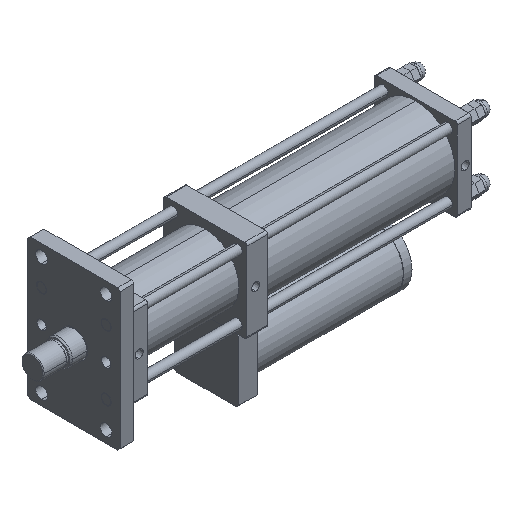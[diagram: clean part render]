
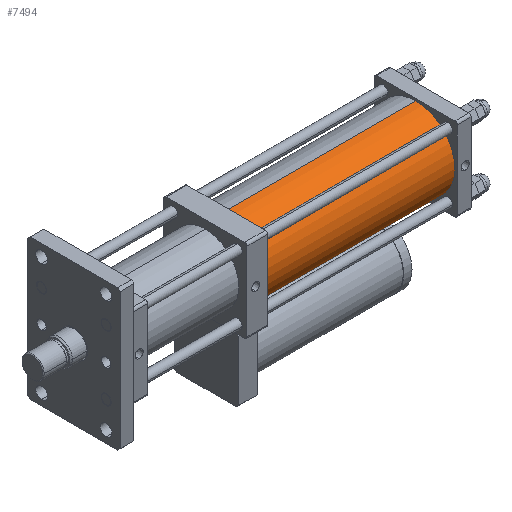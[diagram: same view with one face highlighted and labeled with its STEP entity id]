
A CAD part, isometric view. The second image highlights one B-rep face of the part: STEP entity #7494.
In plain terms, the highlighted cylindrical face has radius 85 mm (diameter 170 mm), a partial arc.
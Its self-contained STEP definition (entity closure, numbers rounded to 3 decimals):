
#153 = AXIS2_PLACEMENT_3D ( 'NONE', #1202, #6009, #1877 ) ;
#187 = ORIENTED_EDGE ( 'NONE', *, *, #7432, .T. ) ;
#398 = ORIENTED_EDGE ( 'NONE', *, *, #2617, .F. ) ;
#438 = DIRECTION ( 'NONE',  ( 0., 0., -1. ) ) ;
#655 = AXIS2_PLACEMENT_3D ( 'NONE', #8635, #4522, #438 ) ;
#850 = CARTESIAN_POINT ( 'NONE',  ( 420., 0., 85. ) ) ;
#1202 = CARTESIAN_POINT ( 'NONE',  ( 831., 0., 0. ) ) ;
#1300 = VERTEX_POINT ( 'NONE', #850 ) ;
#1710 = CARTESIAN_POINT ( 'NONE',  ( 420., 0., -85. ) ) ;
#1757 = CARTESIAN_POINT ( 'NONE',  ( 831., 0., 85. ) ) ;
#1855 = CARTESIAN_POINT ( 'NONE',  ( 831., 0., 0. ) ) ;
#1877 = DIRECTION ( 'NONE',  ( 0., 0., -1. ) ) ;
#2027 = CARTESIAN_POINT ( 'NONE',  ( 831., 0., 85. ) ) ;
#2179 = ORIENTED_EDGE ( 'NONE', *, *, #4779, .T. ) ;
#2554 = CARTESIAN_POINT ( 'NONE',  ( 831., 0., -85. ) ) ;
#2617 = EDGE_CURVE ( 'NONE', #8299, #2994, #6041, .T. ) ;
#2631 = EDGE_CURVE ( 'NONE', #2994, #7379, #5813, .T. ) ;
#2994 = VERTEX_POINT ( 'NONE', #7260 ) ;
#3245 = DIRECTION ( 'NONE',  ( -1., 0., 0. ) ) ;
#3473 = CYLINDRICAL_SURFACE ( 'NONE', #4336, 85. ) ;
#4336 = AXIS2_PLACEMENT_3D ( 'NONE', #1855, #8008, #6666 ) ;
#4367 = CIRCLE ( 'NONE', #655, 85. ) ;
#4522 = DIRECTION ( 'NONE',  ( 1., 0., 0. ) ) ;
#4562 = EDGE_LOOP ( 'NONE', ( #5201, #398, #2179, #187 ) ) ;
#4777 = LINE ( 'NONE', #1757, #8005 ) ;
#4779 = EDGE_CURVE ( 'NONE', #8299, #1300, #4777, .T. ) ;
#5201 = ORIENTED_EDGE ( 'NONE', *, *, #2631, .F. ) ;
#5813 = LINE ( 'NONE', #2554, #7513 ) ;
#5884 = DIRECTION ( 'NONE',  ( -1., 0., 0. ) ) ;
#6009 = DIRECTION ( 'NONE',  ( 1., 0., 0. ) ) ;
#6041 = CIRCLE ( 'NONE', #153, 85. ) ;
#6666 = DIRECTION ( 'NONE',  ( 0., 0., 1. ) ) ;
#7161 = FACE_OUTER_BOUND ( 'NONE', #4562, .T. ) ;
#7260 = CARTESIAN_POINT ( 'NONE',  ( 831., 0., -85. ) ) ;
#7379 = VERTEX_POINT ( 'NONE', #1710 ) ;
#7432 = EDGE_CURVE ( 'NONE', #1300, #7379, #4367, .T. ) ;
#7494 = ADVANCED_FACE ( 'NONE', ( #7161 ), #3473, .T. ) ;
#7513 = VECTOR ( 'NONE', #3245, 1000. ) ;
#8005 = VECTOR ( 'NONE', #5884, 1000. ) ;
#8008 = DIRECTION ( 'NONE',  ( -1., 0., 0. ) ) ;
#8299 = VERTEX_POINT ( 'NONE', #2027 ) ;
#8635 = CARTESIAN_POINT ( 'NONE',  ( 420., 0., 0. ) ) ;
